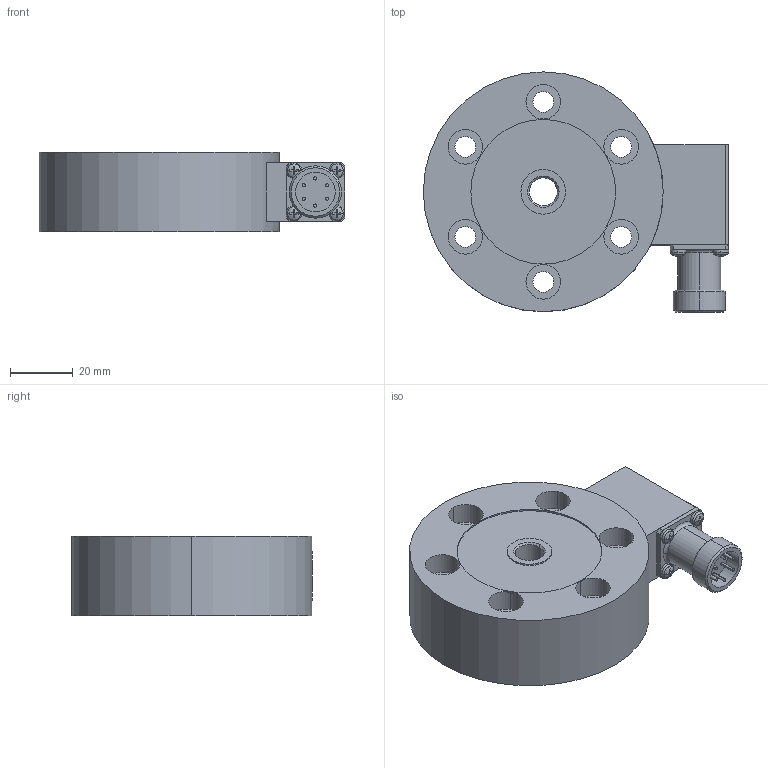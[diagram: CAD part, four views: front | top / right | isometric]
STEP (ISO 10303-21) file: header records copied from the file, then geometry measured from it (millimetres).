
FILE_DESCRIPTION(('STEP AP203'),'1');
FILE_NAME('C:/TPO v2/SharedFS/Outgoing/burster_85075-0_5_5wklafkh7c0ed4vqpd3pooytb.stp','2013-08-27T13:48:54',('TraceParts'),('TraceParts S.A.'),'XStep 1.0',' ',' ');
FILE_SCHEMA(('CONFIG_CONTROL_DESIGN'));
Length unit declared in the file: millimetre
Products named in the file (1): 1
Bounding box: 97 x 76.3 x 25.4 mm (x, y, z)
Volume: 120087.8 mm3; surface area: 23315 mm2
Topology: 1 solids, 1 shells, 182 faces, 437 edges, 276 vertices
Faces by surface type: plane 92, cylinder 56, torus 18, cone 16
Entity records: 5781 total; most frequent: CARTESIAN_POINT 1420, DIRECTION 935, ORIENTED_EDGE 874, EDGE_CURVE 437, AXIS2_PLACEMENT_3D 375, VERTEX_POINT 276, EDGE_LOOP 215, CIRCLE 192
